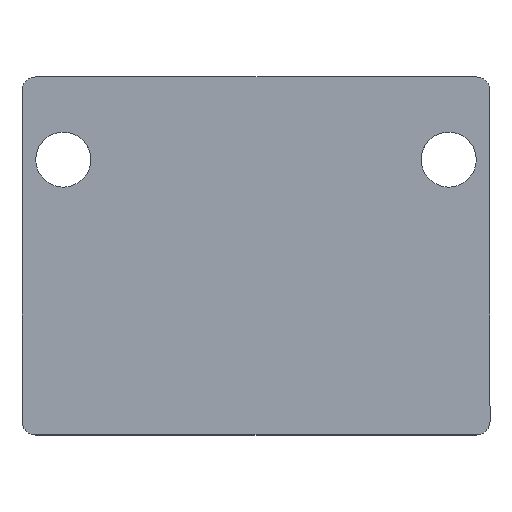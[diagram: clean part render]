
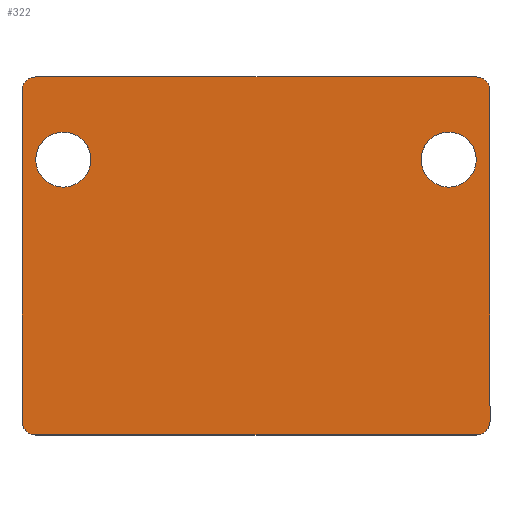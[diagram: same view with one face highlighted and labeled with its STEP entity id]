
A CAD part, top view. The second image highlights one B-rep face of the part: STEP entity #322.
In plain terms, the highlighted planar face has unit normal (0, 0, 1).
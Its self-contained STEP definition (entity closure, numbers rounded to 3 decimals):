
#9 = DIRECTION ( 'NONE',  ( -1., 0., 0. ) ) ;
#12 = DIRECTION ( 'NONE',  ( 1., 0., 0. ) ) ;
#21 = LINE ( 'NONE', #431, #92 ) ;
#35 = AXIS2_PLACEMENT_3D ( 'NONE', #154, #213, #9 ) ;
#44 = DIRECTION ( 'NONE',  ( 0., 0., 1. ) ) ;
#45 = DIRECTION ( 'NONE',  ( 0., 0., 1. ) ) ;
#48 = AXIS2_PLACEMENT_3D ( 'NONE', #116, #247, #319 ) ;
#54 = ORIENTED_EDGE ( 'NONE', *, *, #370, .T. ) ;
#57 = VECTOR ( 'NONE', #141, 1000. ) ;
#60 = VERTEX_POINT ( 'NONE', #240 ) ;
#63 = VERTEX_POINT ( 'NONE', #434 ) ;
#67 = VERTEX_POINT ( 'NONE', #331 ) ;
#72 = EDGE_CURVE ( 'NONE', #60, #222, #21, .T. ) ;
#83 = LINE ( 'NONE', #253, #410 ) ;
#85 = DIRECTION ( 'NONE',  ( 0., 0., 1. ) ) ;
#86 = ORIENTED_EDGE ( 'NONE', *, *, #72, .T. ) ;
#87 = CARTESIAN_POINT ( 'NONE',  ( 8., 6., 2.6 ) ) ;
#92 = VECTOR ( 'NONE', #123, 1000. ) ;
#94 = VERTEX_POINT ( 'NONE', #156 ) ;
#95 = EDGE_LOOP ( 'NONE', ( #427 ) ) ;
#101 = EDGE_CURVE ( 'NONE', #259, #67, #140, .T. ) ;
#104 = CARTESIAN_POINT ( 'NONE',  ( -8.5, 6.5, 2.6 ) ) ;
#106 = CARTESIAN_POINT ( 'NONE',  ( -8., 6., 2.6 ) ) ;
#110 = AXIS2_PLACEMENT_3D ( 'NONE', #186, #44, #324 ) ;
#116 = CARTESIAN_POINT ( 'NONE',  ( -8., -6., 2.6 ) ) ;
#123 = DIRECTION ( 'NONE',  ( 0., -1., 0. ) ) ;
#125 = ORIENTED_EDGE ( 'NONE', *, *, #438, .F. ) ;
#129 = ORIENTED_EDGE ( 'NONE', *, *, #188, .T. ) ;
#140 = LINE ( 'NONE', #104, #57 ) ;
#141 = DIRECTION ( 'NONE',  ( -1., 0., 0. ) ) ;
#152 = CARTESIAN_POINT ( 'NONE',  ( 8.5, -6., 2.6 ) ) ;
#154 = CARTESIAN_POINT ( 'NONE',  ( 7., 3.5, 2.6 ) ) ;
#156 = CARTESIAN_POINT ( 'NONE',  ( -6., 3.5, 2.6 ) ) ;
#157 = EDGE_LOOP ( 'NONE', ( #254, #129, #86, #216, #323, #423, #328, #54 ) ) ;
#173 = CARTESIAN_POINT ( 'NONE',  ( -8., -6.5, 2.6 ) ) ;
#175 = VECTOR ( 'NONE', #293, 1000. ) ;
#176 = DIRECTION ( 'NONE',  ( 1., 0., 0. ) ) ;
#181 = CARTESIAN_POINT ( 'NONE',  ( 8.5, 6., 2.6 ) ) ;
#186 = CARTESIAN_POINT ( 'NONE',  ( 0., 0., 2.6 ) ) ;
#188 = EDGE_CURVE ( 'NONE', #67, #60, #211, .T. ) ;
#198 = CIRCLE ( 'NONE', #48, 0.5 ) ;
#207 = CIRCLE ( 'NONE', #278, 0.5 ) ;
#210 = CARTESIAN_POINT ( 'NONE',  ( 8., 6.5, 2.6 ) ) ;
#211 = CIRCLE ( 'NONE', #442, 0.5 ) ;
#213 = DIRECTION ( 'NONE',  ( 0., 0., 1. ) ) ;
#216 = ORIENTED_EDGE ( 'NONE', *, *, #405, .T. ) ;
#221 = DIRECTION ( 'NONE',  ( 0., 0., 1. ) ) ;
#222 = VERTEX_POINT ( 'NONE', #379 ) ;
#223 = DIRECTION ( 'NONE',  ( 1., 0., 0. ) ) ;
#228 = VERTEX_POINT ( 'NONE', #173 ) ;
#240 = CARTESIAN_POINT ( 'NONE',  ( -8.5, 6., 2.6 ) ) ;
#247 = DIRECTION ( 'NONE',  ( 0., 0., 1. ) ) ;
#248 = CARTESIAN_POINT ( 'NONE',  ( 8.5, 6.5, 2.6 ) ) ;
#250 = FACE_BOUND ( 'NONE', #95, .T. ) ;
#253 = CARTESIAN_POINT ( 'NONE',  ( -8.5, -6.5, 2.6 ) ) ;
#254 = ORIENTED_EDGE ( 'NONE', *, *, #101, .T. ) ;
#259 = VERTEX_POINT ( 'NONE', #210 ) ;
#263 = AXIS2_PLACEMENT_3D ( 'NONE', #87, #45, #12 ) ;
#273 = CIRCLE ( 'NONE', #35, 1. ) ;
#278 = AXIS2_PLACEMENT_3D ( 'NONE', #422, #221, #223 ) ;
#284 = CARTESIAN_POINT ( 'NONE',  ( -7., 3.5, 2.6 ) ) ;
#293 = DIRECTION ( 'NONE',  ( 0., 1., 0. ) ) ;
#294 = VERTEX_POINT ( 'NONE', #315 ) ;
#315 = CARTESIAN_POINT ( 'NONE',  ( 8., -6.5, 2.6 ) ) ;
#319 = DIRECTION ( 'NONE',  ( 1., 0., 0. ) ) ;
#321 = LINE ( 'NONE', #248, #175 ) ;
#322 = ADVANCED_FACE ( 'NONE', ( #250, #356, #388 ), #350, .T. ) ;
#323 = ORIENTED_EDGE ( 'NONE', *, *, #413, .T. ) ;
#324 = DIRECTION ( 'NONE',  ( 1., 0., 0. ) ) ;
#326 = CIRCLE ( 'NONE', #363, 1. ) ;
#327 = DIRECTION ( 'NONE',  ( 1., 0., 0. ) ) ;
#328 = ORIENTED_EDGE ( 'NONE', *, *, #355, .T. ) ;
#329 = EDGE_CURVE ( 'NONE', #94, #94, #326, .T. ) ;
#331 = CARTESIAN_POINT ( 'NONE',  ( -8., 6.5, 2.6 ) ) ;
#350 = PLANE ( 'NONE',  #110 ) ;
#352 = EDGE_LOOP ( 'NONE', ( #125 ) ) ;
#355 = EDGE_CURVE ( 'NONE', #406, #402, #321, .T. ) ;
#356 = FACE_BOUND ( 'NONE', #352, .T. ) ;
#360 = DIRECTION ( 'NONE',  ( 1., 0., 0. ) ) ;
#363 = AXIS2_PLACEMENT_3D ( 'NONE', #284, #85, #360 ) ;
#370 = EDGE_CURVE ( 'NONE', #402, #259, #372, .T. ) ;
#372 = CIRCLE ( 'NONE', #263, 0.5 ) ;
#379 = CARTESIAN_POINT ( 'NONE',  ( -8.5, -6., 2.6 ) ) ;
#382 = DIRECTION ( 'NONE',  ( 0., 0., 1. ) ) ;
#388 = FACE_OUTER_BOUND ( 'NONE', #157, .T. ) ;
#392 = EDGE_CURVE ( 'NONE', #294, #406, #207, .T. ) ;
#402 = VERTEX_POINT ( 'NONE', #181 ) ;
#405 = EDGE_CURVE ( 'NONE', #222, #228, #198, .T. ) ;
#406 = VERTEX_POINT ( 'NONE', #152 ) ;
#410 = VECTOR ( 'NONE', #327, 1000. ) ;
#413 = EDGE_CURVE ( 'NONE', #228, #294, #83, .T. ) ;
#422 = CARTESIAN_POINT ( 'NONE',  ( 8., -6., 2.6 ) ) ;
#423 = ORIENTED_EDGE ( 'NONE', *, *, #392, .T. ) ;
#427 = ORIENTED_EDGE ( 'NONE', *, *, #329, .F. ) ;
#431 = CARTESIAN_POINT ( 'NONE',  ( -8.5, 6.5, 2.6 ) ) ;
#434 = CARTESIAN_POINT ( 'NONE',  ( 6., 3.5, 2.6 ) ) ;
#438 = EDGE_CURVE ( 'NONE', #63, #63, #273, .T. ) ;
#442 = AXIS2_PLACEMENT_3D ( 'NONE', #106, #382, #176 ) ;
